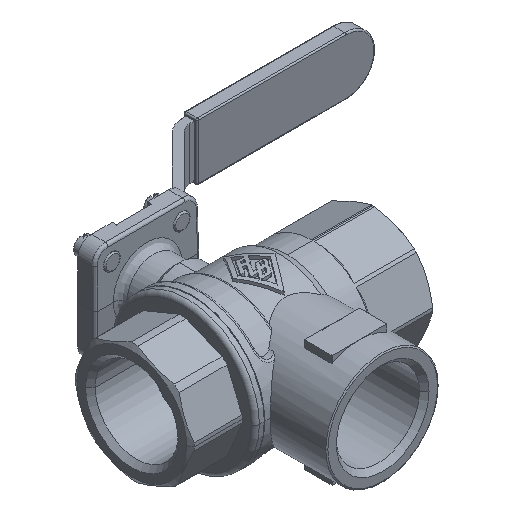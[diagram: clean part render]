
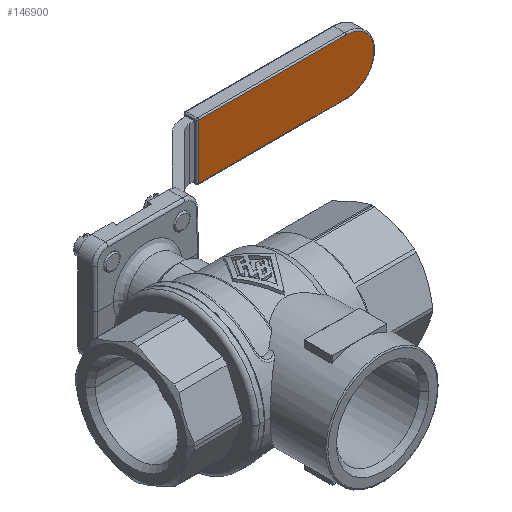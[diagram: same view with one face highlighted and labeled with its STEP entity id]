
A CAD part, isometric view. The second image highlights one B-rep face of the part: STEP entity #146900.
In plain terms, the highlighted planar face has unit normal (0, -1, 0).
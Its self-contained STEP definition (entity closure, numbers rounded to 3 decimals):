
#146150=CARTESIAN_POINT('',(-104.291,70.7,-10.));
#146160=VERTEX_POINT('',#146150);
#146350=CARTESIAN_POINT('',(-104.5,70.7,-10.002));
#146360=VERTEX_POINT('',#146350);
#146390=CARTESIAN_POINT('',(-104.5,70.7,0.
));
#146400=DIRECTION('',(0.,-1.,0.));
#146410=DIRECTION('',(0.,0.,-1.));
#146420=AXIS2_PLACEMENT_3D('',#146390,#146400,#146410);
#146430=CIRCLE('',#146420,10.002);
#146440=EDGE_CURVE('',#146360,#146160,#146430,.T.);
#146560=CARTESIAN_POINT('',(-114.,70.7,0.));
#146570=DIRECTION('',(0.,-1.,0.));
#146580=DIRECTION('',(1.,0.,0.));
#146590=AXIS2_PLACEMENT_3D('',#146560,#146570,#146580);
#146600=PLANE('',#146590);
#146610=CARTESIAN_POINT('',(0.,70.7,-10.))
;
#146620=DIRECTION('',(1.,0.,0.));
#146630=VECTOR('',#146620,1.);
#146640=LINE('',#146610,#146630);
#146650=CARTESIAN_POINT('',(-50.5,70.7,-10.));
#146660=VERTEX_POINT('',#146650);
#146670=EDGE_CURVE('',#146160,#146660,#146640,.T.);
#146680=ORIENTED_EDGE('',*,*,#146670,.T.);
#146690=ORIENTED_EDGE('',*,*,#146440,.T.);
#146700=CARTESIAN_POINT('',(-104.709,70.7,10.));
#146710=VERTEX_POINT('',#146700);
#146720=EDGE_CURVE('',#146710,#146360,#146430,.T.);
#146730=ORIENTED_EDGE('',*,*,#146720,.T.);
#146740=CARTESIAN_POINT('',(0.,70.7,10.));
#146750=DIRECTION('',(-1.,0.,0.));
#146760=VECTOR('',#146750,1.);
#146770=LINE('',#146740,#146760);
#146780=CARTESIAN_POINT('',(-50.5,70.7,10.));
#146790=VERTEX_POINT('',#146780);
#146800=EDGE_CURVE('',#146790,#146710,#146770,.T.);
#146810=ORIENTED_EDGE('',*,*,#146800,.T.);
#146820=CARTESIAN_POINT('',(-50.5,70.7,0.));
#146830=DIRECTION('',(0.,0.,1.));
#146840=VECTOR('',#146830,1.);
#146850=LINE('',#146820,#146840);
#146860=EDGE_CURVE('',#146660,#146790,#146850,.T.);
#146870=ORIENTED_EDGE('',*,*,#146860,.T.);
#146880=EDGE_LOOP('',(#146870,#146810,#146730,#146690,#146680));
#146890=FACE_OUTER_BOUND('',#146880,.T.);
#146900=ADVANCED_FACE('',(#146890),#146600,.T.);
